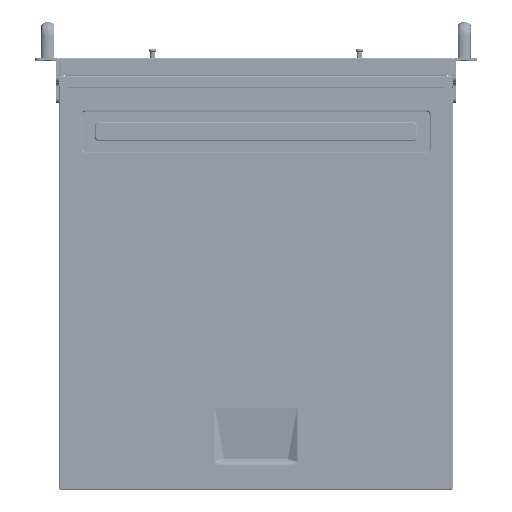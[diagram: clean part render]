
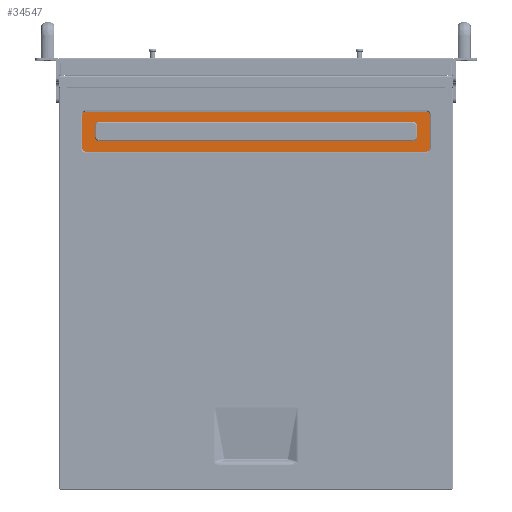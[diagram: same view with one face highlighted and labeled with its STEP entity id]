
A CAD part, top view. The second image highlights one B-rep face of the part: STEP entity #34547.
In plain terms, the highlighted planar face has unit normal (0, 0, 1).
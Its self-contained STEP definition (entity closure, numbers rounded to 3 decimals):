
#12509=FACE_BOUND('',#82932,.T.);
#34547=ADVANCED_FACE('',(#57392,#12509),#410346,.T.);
#57392=FACE_OUTER_BOUND('',#82931,.T.);
#82931=EDGE_LOOP('',(#209801,#209802,#209803,#209804,#209805,#209806,#209807,
#209808));
#82932=EDGE_LOOP('',(#209809,#209810,#209811,#209812,#209813,#209814,#209815,
#209816));
#209801=ORIENTED_EDGE('',*,*,#277626,.T.);
#209802=ORIENTED_EDGE('',*,*,#277624,.T.);
#209803=ORIENTED_EDGE('',*,*,#277619,.T.);
#209804=ORIENTED_EDGE('',*,*,#277616,.T.);
#209805=ORIENTED_EDGE('',*,*,#277611,.T.);
#209806=ORIENTED_EDGE('',*,*,#277608,.T.);
#209807=ORIENTED_EDGE('',*,*,#277603,.T.);
#209808=ORIENTED_EDGE('',*,*,#277599,.T.);
#209809=ORIENTED_EDGE('',*,*,#277630,.T.);
#209810=ORIENTED_EDGE('',*,*,#277637,.T.);
#209811=ORIENTED_EDGE('',*,*,#277629,.T.);
#209812=ORIENTED_EDGE('',*,*,#277642,.T.);
#209813=ORIENTED_EDGE('',*,*,#277628,.T.);
#209814=ORIENTED_EDGE('',*,*,#277647,.T.);
#209815=ORIENTED_EDGE('',*,*,#277627,.T.);
#209816=ORIENTED_EDGE('',*,*,#277631,.T.);
#277599=EDGE_CURVE('',#393006,#393007,#344557,.T.);
#277603=EDGE_CURVE('',#393009,#393006,#337399,.T.);
#277608=EDGE_CURVE('',#393011,#393009,#344562,.T.);
#277611=EDGE_CURVE('',#393013,#393011,#337403,.T.);
#277616=EDGE_CURVE('',#393015,#393013,#344566,.T.);
#277619=EDGE_CURVE('',#393017,#393015,#337407,.T.);
#277624=EDGE_CURVE('',#393019,#393017,#344570,.T.);
#277626=EDGE_CURVE('',#393007,#393019,#337411,.T.);
#277627=EDGE_CURVE('',#393022,#393020,#337412,.T.);
#277628=EDGE_CURVE('',#393024,#393023,#337413,.T.);
#277629=EDGE_CURVE('',#393026,#393025,#337414,.T.);
#277630=EDGE_CURVE('',#393021,#393027,#337415,.T.);
#277631=EDGE_CURVE('',#393020,#393021,#344571,.T.);
#277637=EDGE_CURVE('',#393027,#393026,#344576,.T.);
#277642=EDGE_CURVE('',#393025,#393024,#344580,.T.);
#277647=EDGE_CURVE('',#393023,#393022,#344584,.T.);
#337399=B_SPLINE_CURVE_WITH_KNOTS('',1,(#797842,#797843),.UNSPECIFIED.,
 .F.,.F.,(2,2),(0.,37.),.UNSPECIFIED.);
#337403=B_SPLINE_CURVE_WITH_KNOTS('',1,(#797862,#797863),.UNSPECIFIED.,
 .F.,.F.,(2,2),(0.,372.),.UNSPECIFIED.);
#337407=B_SPLINE_CURVE_WITH_KNOTS('',1,(#797882,#797883),.UNSPECIFIED.,
 .F.,.F.,(2,2),(0.,37.),.UNSPECIFIED.);
#337411=B_SPLINE_CURVE_WITH_KNOTS('',1,(#797899,#797900),.UNSPECIFIED.,
 .F.,.F.,(2,2),(0.,372.),.UNSPECIFIED.);
#337412=B_SPLINE_CURVE_WITH_KNOTS('',1,(#797901,#797902),.UNSPECIFIED.,
 .F.,.F.,(2,2),(-342.,0.),.UNSPECIFIED.);
#337413=B_SPLINE_CURVE_WITH_KNOTS('',1,(#797903,#797904),.UNSPECIFIED.,
 .F.,.F.,(2,2),(-12.,0.),.UNSPECIFIED.);
#337414=B_SPLINE_CURVE_WITH_KNOTS('',1,(#797905,#797906),.UNSPECIFIED.,
 .F.,.F.,(2,2),(-342.,0.),.UNSPECIFIED.);
#337415=B_SPLINE_CURVE_WITH_KNOTS('',1,(#797907,#797908),.UNSPECIFIED.,
 .F.,.F.,(2,2),(-12.,0.),.UNSPECIFIED.);
#344557=TRIMMED_CURVE($,#351090,(#797832),(#797833),.T.,.CARTESIAN.);
#344562=TRIMMED_CURVE($,#351095,(#797855),(#797856),.T.,.CARTESIAN.);
#344566=TRIMMED_CURVE($,#351099,(#797875),(#797876),.T.,.CARTESIAN.);
#344570=TRIMMED_CURVE($,#351103,(#797895),(#797896),.T.,.CARTESIAN.);
#344571=TRIMMED_CURVE($,#351104,(#797910),(#797911),.T.,.CARTESIAN.);
#344576=TRIMMED_CURVE($,#351109,(#797927),(#797928),.T.,.CARTESIAN.);
#344580=TRIMMED_CURVE($,#351113,(#797941),(#797942),.T.,.CARTESIAN.);
#344584=TRIMMED_CURVE($,#351117,(#797955),(#797956),.T.,.CARTESIAN.);
#351090=CIRCLE('',#443820,3.307);
#351095=CIRCLE('',#443825,3.307);
#351099=CIRCLE('',#443829,3.307);
#351103=CIRCLE('',#443833,3.307);
#351104=CIRCLE('',#443834,4.693);
#351109=CIRCLE('',#443839,4.693);
#351113=CIRCLE('',#443843,4.693);
#351117=CIRCLE('',#443847,4.693);
#393006=VERTEX_POINT('',#797092);
#393007=VERTEX_POINT('',#797093);
#393009=VERTEX_POINT('',#797095);
#393011=VERTEX_POINT('',#797097);
#393013=VERTEX_POINT('',#797099);
#393015=VERTEX_POINT('',#797101);
#393017=VERTEX_POINT('',#797103);
#393019=VERTEX_POINT('',#797105);
#393020=VERTEX_POINT('',#797106);
#393021=VERTEX_POINT('',#797107);
#393022=VERTEX_POINT('',#797108);
#393023=VERTEX_POINT('',#797109);
#393024=VERTEX_POINT('',#797110);
#393025=VERTEX_POINT('',#797111);
#393026=VERTEX_POINT('',#797112);
#393027=VERTEX_POINT('',#797113);
#410346=PLANE('',#443705);
#443705=AXIS2_PLACEMENT_3D('',#794162,#477394,$);
#443820=AXIS2_PLACEMENT_3D($,#797831,#477569,#477570);
#443825=AXIS2_PLACEMENT_3D($,#797854,#477579,#477580);
#443829=AXIS2_PLACEMENT_3D($,#797874,#477587,#477588);
#443833=AXIS2_PLACEMENT_3D($,#797894,#477595,#477596);
#443834=AXIS2_PLACEMENT_3D($,#797909,#477597,#477598);
#443839=AXIS2_PLACEMENT_3D($,#797926,#477607,#477608);
#443843=AXIS2_PLACEMENT_3D($,#797940,#477615,#477616);
#443847=AXIS2_PLACEMENT_3D($,#797954,#477623,#477624);
#477394=DIRECTION('',(0.,0.,1.));
#477569=DIRECTION('',(0.,0.,1.));
#477570=DIRECTION('',(-1.,0.,0.));
#477579=DIRECTION('',(0.,0.,1.));
#477580=DIRECTION('',(0.,1.,0.));
#477587=DIRECTION('',(0.,0.,1.));
#477588=DIRECTION('',(1.,0.,0.));
#477595=DIRECTION('',(0.,0.,1.));
#477596=DIRECTION('',(0.,-1.,0.));
#477597=DIRECTION('',(0.,0.,-1.));
#477598=DIRECTION('',(0.,-1.,0.));
#477607=DIRECTION('',(0.,0.,-1.));
#477608=DIRECTION('',(-1.,0.,0.));
#477615=DIRECTION('',(0.,0.,-1.));
#477616=DIRECTION('',(0.,1.,0.));
#477623=DIRECTION('',(0.,0.,-1.));
#477624=DIRECTION('',(1.,0.,0.));
#794162=CARTESIAN_POINT('',(240.806,108.794,87.));
#797092=CARTESIAN_POINT('',(-176.407,117.2,87.));
#797093=CARTESIAN_POINT('',(-173.1,113.893,87.));
#797095=CARTESIAN_POINT('',(-176.407,154.2,87.));
#797097=CARTESIAN_POINT('',(-173.1,157.507,87.));
#797099=CARTESIAN_POINT('',(198.9,157.507,87.));
#797101=CARTESIAN_POINT('',(202.207,154.2,87.));
#797103=CARTESIAN_POINT('',(202.207,117.2,87.));
#797105=CARTESIAN_POINT('',(198.9,113.893,87.));
#797106=CARTESIAN_POINT('',(-158.1,125.007,87.));
#797107=CARTESIAN_POINT('',(-162.793,129.7,87.));
#797108=CARTESIAN_POINT('',(183.9,125.007,87.));
#797109=CARTESIAN_POINT('',(188.593,129.7,87.));
#797110=CARTESIAN_POINT('',(188.593,141.7,87.));
#797111=CARTESIAN_POINT('',(183.9,146.393,87.));
#797112=CARTESIAN_POINT('',(-158.1,146.393,87.));
#797113=CARTESIAN_POINT('',(-162.793,141.7,87.));
#797831=CARTESIAN_POINT('',(-173.1,117.2,87.));
#797832=CARTESIAN_POINT('',(-176.407,117.2,87.));
#797833=CARTESIAN_POINT('',(-173.1,113.893,87.));
#797842=CARTESIAN_POINT('',(-176.407,154.2,87.));
#797843=CARTESIAN_POINT('',(-176.407,117.2,87.));
#797854=CARTESIAN_POINT('',(-173.1,154.2,87.));
#797855=CARTESIAN_POINT('',(-173.1,157.507,87.));
#797856=CARTESIAN_POINT('',(-176.407,154.2,87.));
#797862=CARTESIAN_POINT('',(198.9,157.507,87.));
#797863=CARTESIAN_POINT('',(-173.1,157.507,87.));
#797874=CARTESIAN_POINT('',(198.9,154.2,87.));
#797875=CARTESIAN_POINT('',(202.207,154.2,87.));
#797876=CARTESIAN_POINT('',(198.9,157.507,87.));
#797882=CARTESIAN_POINT('',(202.207,117.2,87.));
#797883=CARTESIAN_POINT('',(202.207,154.2,87.));
#797894=CARTESIAN_POINT('',(198.9,117.2,87.));
#797895=CARTESIAN_POINT('',(198.9,113.893,87.));
#797896=CARTESIAN_POINT('',(202.207,117.2,87.));
#797899=CARTESIAN_POINT('',(-173.1,113.893,87.));
#797900=CARTESIAN_POINT('',(198.9,113.893,87.));
#797901=CARTESIAN_POINT('',(183.9,125.007,87.));
#797902=CARTESIAN_POINT('',(-158.1,125.007,87.));
#797903=CARTESIAN_POINT('',(188.593,141.7,87.));
#797904=CARTESIAN_POINT('',(188.593,129.7,87.));
#797905=CARTESIAN_POINT('',(-158.1,146.393,87.));
#797906=CARTESIAN_POINT('',(183.9,146.393,87.));
#797907=CARTESIAN_POINT('',(-162.793,129.7,87.));
#797908=CARTESIAN_POINT('',(-162.793,141.7,87.));
#797909=CARTESIAN_POINT('',(-158.1,129.7,87.));
#797910=CARTESIAN_POINT('',(-158.1,125.007,87.));
#797911=CARTESIAN_POINT('',(-162.793,129.7,87.));
#797926=CARTESIAN_POINT('',(-158.1,141.7,87.));
#797927=CARTESIAN_POINT('',(-162.793,141.7,87.));
#797928=CARTESIAN_POINT('',(-158.1,146.393,87.));
#797940=CARTESIAN_POINT('',(183.9,141.7,87.));
#797941=CARTESIAN_POINT('',(183.9,146.393,87.));
#797942=CARTESIAN_POINT('',(188.593,141.7,87.));
#797954=CARTESIAN_POINT('',(183.9,129.7,87.));
#797955=CARTESIAN_POINT('',(188.593,129.7,87.));
#797956=CARTESIAN_POINT('',(183.9,125.007,87.));
